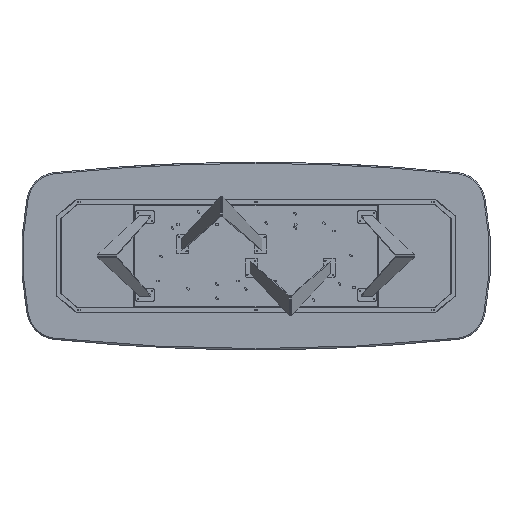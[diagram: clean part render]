
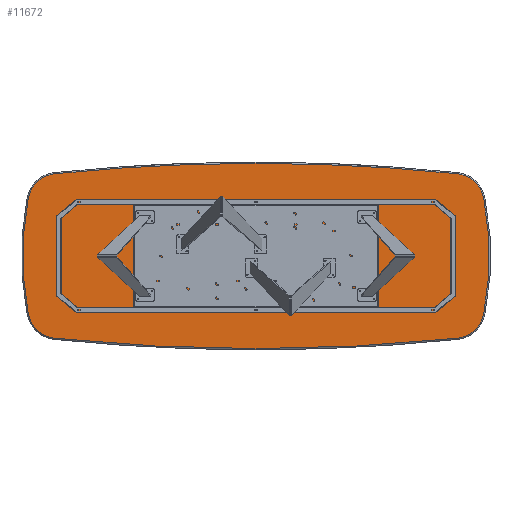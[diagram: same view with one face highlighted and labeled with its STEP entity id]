
A CAD part, front view. The second image highlights one B-rep face of the part: STEP entity #11672.
In plain terms, the highlighted planar face has unit normal (0, -1, 0).
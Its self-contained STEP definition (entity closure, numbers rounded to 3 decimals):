
#219 = AXIS2_PLACEMENT_3D ( 'NONE', #14494, #10199, #6338 ) ;
#252 = ORIENTED_EDGE ( 'NONE', *, *, #17149, .T. ) ;
#647 = CIRCLE ( 'NONE', #8467, 12492. ) ;
#705 = ORIENTED_EDGE ( 'NONE', *, *, #2833, .T. ) ;
#749 = VERTEX_POINT ( 'NONE', #17098 ) ;
#1110 = AXIS2_PLACEMENT_3D ( 'NONE', #8487, #13941, #5694 ) ;
#1292 = VERTEX_POINT ( 'NONE', #10999 ) ;
#1346 = DIRECTION ( 'NONE',  ( 0., 0., 1. ) ) ;
#1621 = CARTESIAN_POINT ( 'NONE',  ( -400., 0., 0. ) ) ;
#1745 = DIRECTION ( 'NONE',  ( 0., 0., 1. ) ) ;
#2152 = DIRECTION ( 'NONE',  ( 0., -1., 0. ) ) ;
#2184 = AXIS2_PLACEMENT_3D ( 'NONE', #15679, #2260, #7692 ) ;
#2259 = CIRCLE ( 'NONE', #8971, 192. ) ;
#2260 = DIRECTION ( 'NONE',  ( 0., -1., 0. ) ) ;
#2605 = CARTESIAN_POINT ( 'NONE',  ( 1266.747, 0., 334.597 ) ) ;
#2833 = EDGE_CURVE ( 'NONE', #15400, #9420, #14925, .T. ) ;
#3021 = EDGE_CURVE ( 'NONE', #11356, #14397, #647, .T. ) ;
#3025 = CARTESIAN_POINT ( 'NONE',  ( -1266.747, 0., 334.597 ) ) ;
#4208 = AXIS2_PLACEMENT_3D ( 'NONE', #13616, #15987, #1346 ) ;
#4349 = DIRECTION ( 'NONE',  ( 0., -1., 0. ) ) ;
#4838 = CARTESIAN_POINT ( 'NONE',  ( -1454.991, 0., 372.386 ) ) ;
#5234 = EDGE_CURVE ( 'NONE', #1292, #11356, #14873, .T. ) ;
#5288 = ORIENTED_EDGE ( 'NONE', *, *, #13152, .T. ) ;
#5472 = VERTEX_POINT ( 'NONE', #14048 ) ;
#5514 = AXIS2_PLACEMENT_3D ( 'NONE', #9726, #5936, #1745 ) ;
#5570 = DIRECTION ( 'NONE',  ( 0., 0., 1. ) ) ;
#5645 = DIRECTION ( 'NONE',  ( 0., -1., 0. ) ) ;
#5694 = DIRECTION ( 'NONE',  ( 0., 0., 1. ) ) ;
#5773 = PLANE ( 'NONE',  #5514 ) ;
#5936 = DIRECTION ( 'NONE',  ( 0., 1., 0. ) ) ;
#6263 = ORIENTED_EDGE ( 'NONE', *, *, #5234, .T. ) ;
#6314 = CARTESIAN_POINT ( 'NONE',  ( -1286.52, 0., 525.576 ) ) ;
#6338 = DIRECTION ( 'NONE',  ( 0., 0., 1. ) ) ;
#6687 = AXIS2_PLACEMENT_3D ( 'NONE', #1621, #5645, #14958 ) ;
#6820 = EDGE_LOOP ( 'NONE', ( #6263, #10597, #10474, #16624, #705, #11528, #14735, #252, #5288 ) ) ;
#7537 = DIRECTION ( 'NONE',  ( 0., -1., 0. ) ) ;
#7692 = DIRECTION ( 'NONE',  ( 0., 0., 1. ) ) ;
#8073 = VERTEX_POINT ( 'NONE', #4838 ) ;
#8296 = CARTESIAN_POINT ( 'NONE',  ( 0., 0., 11900. ) ) ;
#8467 = AXIS2_PLACEMENT_3D ( 'NONE', #8296, #10764, #9535 ) ;
#8487 = CARTESIAN_POINT ( 'NONE',  ( 0., 0., -11900. ) ) ;
#8546 = DIRECTION ( 'NONE',  ( 0., 0., 1. ) ) ;
#8859 = DIRECTION ( 'NONE',  ( 0., 0., 1. ) ) ;
#8971 = AXIS2_PLACEMENT_3D ( 'NONE', #3025, #4349, #5570 ) ;
#9420 = VERTEX_POINT ( 'NONE', #11093 ) ;
#9535 = DIRECTION ( 'NONE',  ( 0., 0., 1. ) ) ;
#9726 = CARTESIAN_POINT ( 'NONE',  ( -200., 0., 5950. ) ) ;
#9734 = CARTESIAN_POINT ( 'NONE',  ( 1286.52, 0., -525.576 ) ) ;
#10106 = CIRCLE ( 'NONE', #10963, 192. ) ;
#10199 = DIRECTION ( 'NONE',  ( 0., -1., 0. ) ) ;
#10429 = AXIS2_PLACEMENT_3D ( 'NONE', #2605, #7537, #8859 ) ;
#10474 = ORIENTED_EDGE ( 'NONE', *, *, #17303, .T. ) ;
#10597 = ORIENTED_EDGE ( 'NONE', *, *, #3021, .T. ) ;
#10764 = DIRECTION ( 'NONE',  ( 0., -1., 0. ) ) ;
#10963 = AXIS2_PLACEMENT_3D ( 'NONE', #15320, #2152, #8546 ) ;
#10999 = CARTESIAN_POINT ( 'NONE',  ( -1454.991, 0., -372.386 ) ) ;
#11093 = CARTESIAN_POINT ( 'NONE',  ( 1286.52, 0., 525.576 ) ) ;
#11356 = VERTEX_POINT ( 'NONE', #11405 ) ;
#11405 = CARTESIAN_POINT ( 'NONE',  ( -1286.52, 0., -525.576 ) ) ;
#11528 = ORIENTED_EDGE ( 'NONE', *, *, #12282, .T. ) ;
#11672 = ADVANCED_FACE ( 'NONE', ( #15000 ), #5773, .F. ) ;
#11715 = CIRCLE ( 'NONE', #2184, 1892. ) ;
#11968 = CIRCLE ( 'NONE', #219, 12492. ) ;
#12282 = EDGE_CURVE ( 'NONE', #9420, #749, #11968, .T. ) ;
#12498 = CARTESIAN_POINT ( 'NONE',  ( 1454.991, 0., 372.386 ) ) ;
#13152 = EDGE_CURVE ( 'NONE', #8073, #1292, #11715, .T. ) ;
#13616 = CARTESIAN_POINT ( 'NONE',  ( -1266.747, 0., -334.597 ) ) ;
#13941 = DIRECTION ( 'NONE',  ( 0., -1., 0. ) ) ;
#13971 = EDGE_CURVE ( 'NONE', #5472, #15400, #16084, .T. ) ;
#14048 = CARTESIAN_POINT ( 'NONE',  ( 1454.991, 0., -372.386 ) ) ;
#14397 = VERTEX_POINT ( 'NONE', #9734 ) ;
#14414 = EDGE_CURVE ( 'NONE', #749, #16436, #15396, .T. ) ;
#14494 = CARTESIAN_POINT ( 'NONE',  ( 0., 0., -11900. ) ) ;
#14735 = ORIENTED_EDGE ( 'NONE', *, *, #14414, .T. ) ;
#14873 = CIRCLE ( 'NONE', #4208, 192. ) ;
#14925 = CIRCLE ( 'NONE', #10429, 192. ) ;
#14958 = DIRECTION ( 'NONE',  ( 0., 0., 1. ) ) ;
#15000 = FACE_OUTER_BOUND ( 'NONE', #6820, .T. ) ;
#15320 = CARTESIAN_POINT ( 'NONE',  ( 1266.747, 0., -334.597 ) ) ;
#15396 = CIRCLE ( 'NONE', #1110, 12492. ) ;
#15400 = VERTEX_POINT ( 'NONE', #12498 ) ;
#15679 = CARTESIAN_POINT ( 'NONE',  ( 400., 0., 0. ) ) ;
#15987 = DIRECTION ( 'NONE',  ( 0., -1., 0. ) ) ;
#16084 = CIRCLE ( 'NONE', #6687, 1892. ) ;
#16436 = VERTEX_POINT ( 'NONE', #6314 ) ;
#16624 = ORIENTED_EDGE ( 'NONE', *, *, #13971, .T. ) ;
#17098 = CARTESIAN_POINT ( 'NONE',  ( 0., 0., 592. ) ) ;
#17149 = EDGE_CURVE ( 'NONE', #16436, #8073, #2259, .T. ) ;
#17303 = EDGE_CURVE ( 'NONE', #14397, #5472, #10106, .T. ) ;
